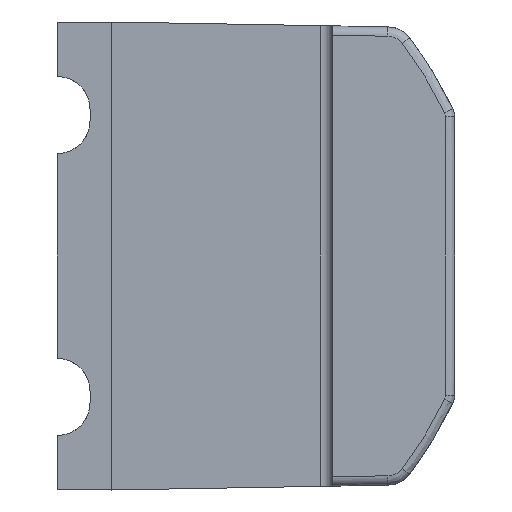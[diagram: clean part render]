
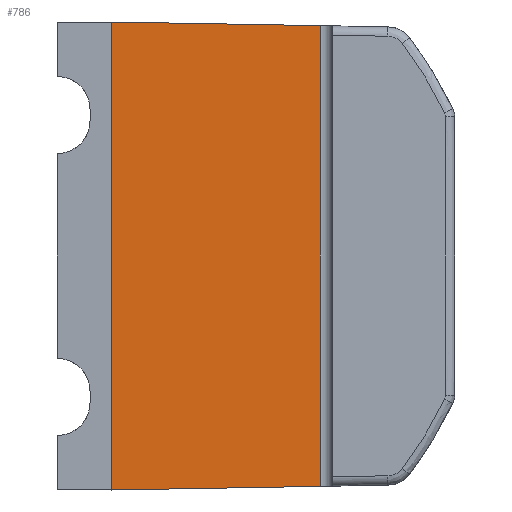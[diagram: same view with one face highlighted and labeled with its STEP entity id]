
A CAD part, front view. The second image highlights one B-rep face of the part: STEP entity #786.
In plain terms, the highlighted planar face has unit normal (-0.009, -1, 0).
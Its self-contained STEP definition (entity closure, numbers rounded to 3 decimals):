
#81 = CARTESIAN_POINT ( 'NONE',  ( 16.008, -0.016, 12.255 ) ) ;
#520 = EDGE_CURVE ( 'NONE', #4862, #5404, #522, .T. ) ;
#522 = LINE ( 'NONE', #2711, #2627 ) ;
#539 = DIRECTION ( 'NONE',  ( -0.009, -1., 0. ) ) ;
#591 = CARTESIAN_POINT ( 'NONE',  ( 14.15, 0., 12.5 ) ) ;
#723 = ORIENTED_EDGE ( 'NONE', *, *, #520, .T. ) ;
#762 = VECTOR ( 'NONE', #1436, 1000. ) ;
#786 = ADVANCED_FACE ( 'NONE', ( #4420 ), #1876, .T. ) ;
#863 = DIRECTION ( 'NONE',  ( 0., 0., 1. ) ) ;
#1077 = ORIENTED_EDGE ( 'NONE', *, *, #3925, .T. ) ;
#1434 = DIRECTION ( 'NONE',  ( 1., -0.009, -0.017 ) ) ;
#1436 = DIRECTION ( 'NONE',  ( 1., -0.009, 0.017 ) ) ;
#1630 = ORIENTED_EDGE ( 'NONE', *, *, #4804, .F. ) ;
#1668 = CARTESIAN_POINT ( 'NONE',  ( 4.9, 0.081, 12.5 ) ) ;
#1876 = PLANE ( 'NONE',  #2004 ) ;
#1971 = EDGE_CURVE ( 'NONE', #4213, #4822, #5176, .T. ) ;
#2004 = AXIS2_PLACEMENT_3D ( 'NONE', #591, #539, #5306 ) ;
#2237 = ORIENTED_EDGE ( 'NONE', *, *, #1971, .F. ) ;
#2627 = VECTOR ( 'NONE', #4430, 1000. ) ;
#2711 = CARTESIAN_POINT ( 'NONE',  ( 16.008, -0.016, 0. ) ) ;
#2994 = VECTOR ( 'NONE', #1434, 1000. ) ;
#3069 = EDGE_LOOP ( 'NONE', ( #2237, #1077, #723, #1630 ) ) ;
#3143 = CARTESIAN_POINT ( 'NONE',  ( 4.9, 0.081, 12.449 ) ) ;
#3512 = CARTESIAN_POINT ( 'NONE',  ( 1.912, 0.107, 12.502 ) ) ;
#3925 = EDGE_CURVE ( 'NONE', #4213, #4862, #4890, .T. ) ;
#4213 = VERTEX_POINT ( 'NONE', #4685 ) ;
#4301 = VECTOR ( 'NONE', #863, 1000. ) ;
#4420 = FACE_OUTER_BOUND ( 'NONE', #3069, .T. ) ;
#4430 = DIRECTION ( 'NONE',  ( 0., 0., 1. ) ) ;
#4435 = CARTESIAN_POINT ( 'NONE',  ( 16.008, -0.016, -12.255 ) ) ;
#4685 = CARTESIAN_POINT ( 'NONE',  ( 4.9, 0.081, -12.449 ) ) ;
#4804 = EDGE_CURVE ( 'NONE', #4822, #5404, #5203, .T. ) ;
#4822 = VERTEX_POINT ( 'NONE', #3143 ) ;
#4862 = VERTEX_POINT ( 'NONE', #4435 ) ;
#4890 = LINE ( 'NONE', #5297, #762 ) ;
#5176 = LINE ( 'NONE', #1668, #4301 ) ;
#5203 = LINE ( 'NONE', #3512, #2994 ) ;
#5297 = CARTESIAN_POINT ( 'NONE',  ( 1.912, 0.107, -12.502 ) ) ;
#5306 = DIRECTION ( 'NONE',  ( 1., -0.009, 0. ) ) ;
#5404 = VERTEX_POINT ( 'NONE', #81 ) ;
